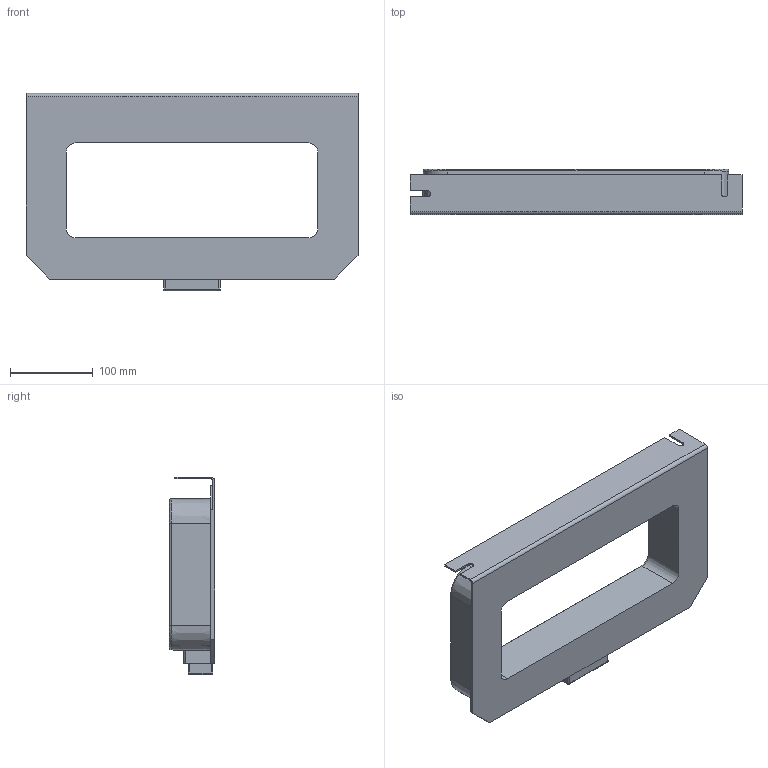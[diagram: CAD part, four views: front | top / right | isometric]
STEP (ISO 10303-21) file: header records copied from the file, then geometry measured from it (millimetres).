
FILE_DESCRIPTION((''),'2;1');
FILE_NAME('WK_105_305','2014-01-17T',('esors'),(''),'PRO/ENGINEER BY PARAMETRIC TECHNOLOGY CORPORATION, 2012360','PRO/ENGINEER BY PARAMETRIC TECHNOLOGY CORPORATION, 2012360','');
FILE_SCHEMA(('AUTOMOTIVE_DESIGN { 1 0 10303 214 1 1 1 1 }'));
Length unit declared in the file: millimetre
Products named in the file (1): WK_105_305
Bounding box: 402 x 54.5 x 239 mm (x, y, z)
Volume: 1943299.3 mm3; surface area: 249148.7 mm2
Topology: 1 solids, 1 shells, 79 faces, 200 edges, 124 vertices
Faces by surface type: plane 37, cylinder 22, cone 8, torus 8, sphere 4
Entity records: 3155 total; most frequent: DIRECTION 422, CARTESIAN_POINT 413, ORIENTED_EDGE 400, PRESENTATION_STYLE_ASSIGNMENT 201, STYLED_ITEM 201, CURVE_STYLE 200, EDGE_CURVE 200, AXIS2_PLACEMENT_3D 145
